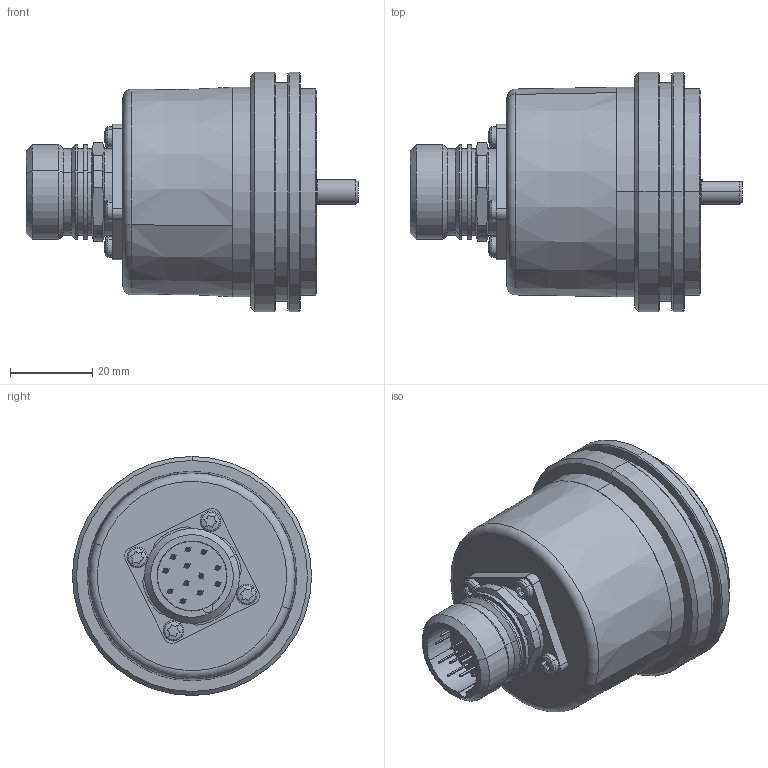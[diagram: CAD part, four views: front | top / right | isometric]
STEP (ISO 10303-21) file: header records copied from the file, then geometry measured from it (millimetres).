
FILE_DESCRIPTION (( 'STEP AP214' ), '1' );
FILE_NAME ('5000.B1X7.XXXX.STEP', '2009-01-14T08:46:09', ( 'admin' ), ( 'Fritz Kübler GmbH' ), 'SwSTEP 2.0', 'SolidWorks 2008', '' );
FILE_SCHEMA (( 'AUTOMOTIVE_DESIGN' ));
Length unit declared in the file: millimetre
Products named in the file (1): 5000.B1X7.XXXX
Bounding box: 80.5 x 58 x 58 mm (x, y, z)
Volume: 65427 mm3; surface area: 38642.4 mm2
Topology: 22 solids, 25 shells, 879 faces, 1983 edges, 1190 vertices
Faces by surface type: cylinder 355, plane 205, cone 149, torus 99, sphere 59, bspline 12
Entity records: 35146 total; most frequent: CARTESIAN_POINT 5259, DIRECTION 4699, ORIENTED_EDGE 3786, AXIS2_PLACEMENT_3D 2018, EDGE_CURVE 1893, VERTEX_POINT 1160, CIRCLE 1150, EDGE_LOOP 1041
